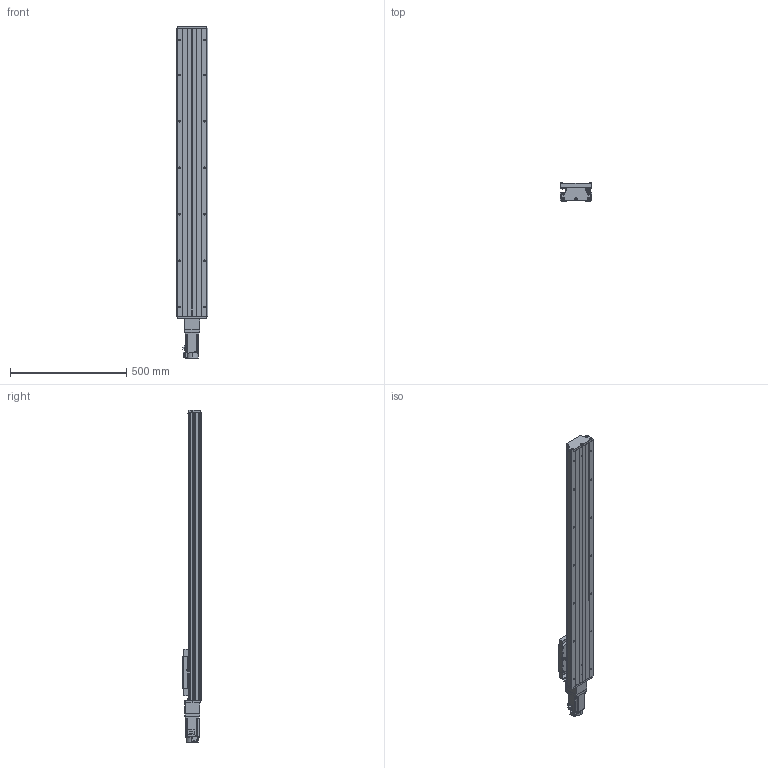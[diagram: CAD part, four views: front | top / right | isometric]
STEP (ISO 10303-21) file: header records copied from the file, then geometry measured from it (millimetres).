
FILE_DESCRIPTION (( 'STEP AP203' ), '1' );
FILE_NAME ('GTH14-1000-BC-M40-C4.step', '2023-06-30T08:31:51', ( '微软用户' ), ( '微软中国' ), 'SwSTEP 2.0', 'SolidWorks 2020', '' );
FILE_SCHEMA (( 'CONFIG_CONTROL_DESIGN' ));
Length unit declared in the file: millimetre
Products named in the file (20): GBT 70.2-M3¡Á5_M3¡Á6; す晦芛蹟隊 M3℅5; GTH14-001_1000; CTHA60-017; CTHA86-006-1_M40; GTH14-002_GTH14-002; EE_SX911P_R; CTHA86-013; GTH14-004; CTHA60-016; CTHA86-027-1; GTH14-005; GBT 70.1-M3℅5; HG-KN43J-S100; GB1155-6X6; GBT77-2000 M3×3; GBT 70.3-M3℅8; GBT70.1 M5℅16; GTH14-031; GTH14-1000-BC-M40-C4
Assembly tree (57 placements, depth 2):
  GTH14-1000-BC-M40-C4
    GTH14-001_1000
    GTH14-002_GTH14-002
    GTH14-004
    GTH14-005
    GB1155-6X6  x2
    GBT70.1 M5℅16  x10
    GBT 70.2-M3¡Á5_M3¡Á6  x8
    CTHA60-017  x3
    EE_SX911P_R  x3
    CTHA60-016  x2
    GBT 70.1-M3℅5  x6
    GBT77-2000 M3×3  x6
    GTH14-031
    す晦芛蹟隊 M3℅5  x6
    CTHA86-006-1_M40
    CTHA86-013
    CTHA86-027-1
    HG-KN43J-S100
    GBT 70.3-M3℅8  x2
Bounding box: 135 x 78 x 1428.7 mm (x, y, z)
Volume: 7049839.3 mm3; surface area: 1084883.3 mm2
Topology: 60 solids, 60 shells, 2434 faces, 5805 edges, 3586 vertices
Faces by surface type: plane 1306, cylinder 664, cone 304, torus 120, sphere 20, bspline 20
Entity records: 45036 total; most frequent: CARTESIAN_POINT 9997, DIRECTION 6636, ORIENTED_EDGE 6494, EDGE_CURVE 3247, AXIS2_PLACEMENT_3D 2269, LINE 2098, VECTOR 2098, VERTEX_POINT 2054
